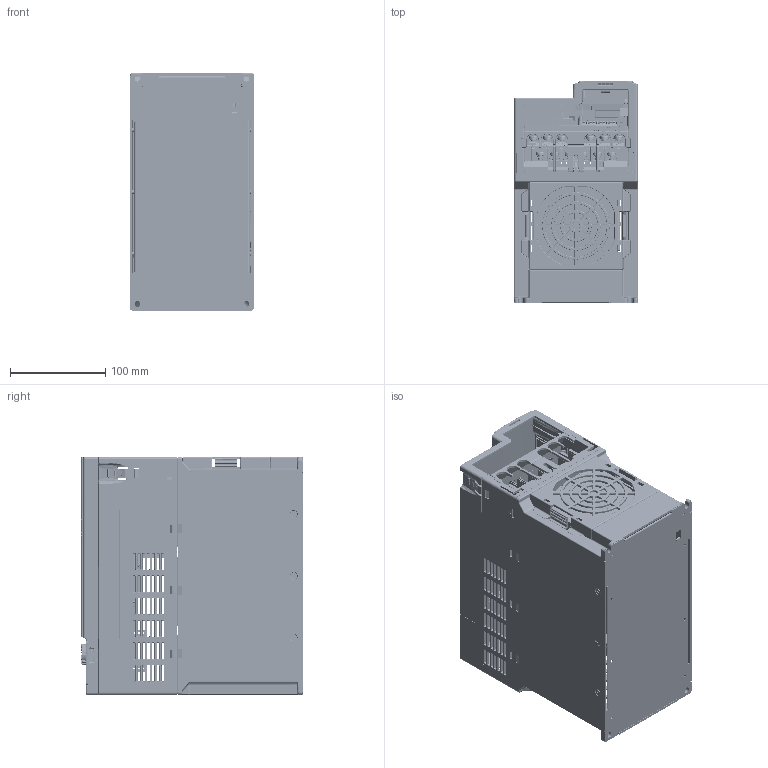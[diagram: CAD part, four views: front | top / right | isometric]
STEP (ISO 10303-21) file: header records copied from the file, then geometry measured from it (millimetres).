
FILE_DESCRIPTION((''),'2;1');
FILE_NAME('0_M300-FRAME-E-ASSY_ASM_ASM','2018-01-23T',('HONGDA.LU'),(''),'PRO/ENGINEER BY PARAMETRIC TECHNOLOGY CORPORATION, 2015240','PRO/ENGINEER BY PARAMETRIC TECHNOLOGY CORPORATION, 2015240','');
FILE_SCHEMA(('AUTOMOTIVE_DESIGN { 1 0 10303 214 1 1 1 1 }'));
Products named in the file (124): 1E_64_97_187_AF0; PRT0001_72_162_AF0; PRT0002_72_161_AF0; PRT0003_72_161_AF0; ASM0004_ASM_56_ASM_161_AF0_ASM; PRT0001_72_162_AF1; PRT0002_72_161_AF1; PRT0003_72_161_AF1; ASM0004_ASM_56_ASM_161_AF1_ASM; PRT0001_72_162_AF2; PRT0002_72_161_AF2; PRT0003_72_161_AF2; ASM0004_ASM_56_ASM_161_AF2_ASM; PRT0001_72_162_AF3; PRT0002_72_161_AF3; PRT0003_72_161_AF3; ASM0004_ASM_56_ASM_161_AF3_ASM; PRT0001_72_162_AF4; PRT0002_72_161_AF4; PRT0003_72_161_AF4; ASM0004_ASM_56_ASM_161_AF4_ASM; PRT0001_72_162_AF5; PRT0002_72_161_AF5; PRT0003_72_161_AF5; ASM0004_ASM_56_ASM_161_AF5_ASM; PRT0004_72_162_AF0; U-NUT_4_63_161_AF0; SR_4_63_161_AF0; ASM0005_ASM_57_ASM_161_AF0_ASM; PRT0004_72_162_AF1; U-NUT_4_63_161_AF1; SR_4_63_161_AF1; ASM0005_ASM_57_ASM_161_AF1_ASM; PRT0004_72_162_AF2; U-NUT_4_63_161_AF2; SR_4_63_161_AF2; ASM0005_ASM_57_ASM_161_AF2_ASM; PRT0004_72_162_AF3; U-NUT_4_63_161_AF3; SR_4_63_161_AF3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
Assembly tree (134 placements, depth 8):
  0_M300-FRAME-E-ASSY_ASM_ASM
    0_M300-FRAME-E-ASSY_ASM_602_ASM
      M300-E-PCB-ASSY_ASM_179_ASM
        M300-E-PWR-PCB-ASSY_ASM_230_ASM
          M300-E-PWR-ASSY-220V_ASM_434_ASM
            M300-E-TBLK_ASM_169_ASM
              1E_64_97_187_AF0
              ASM0004_ASM_56_ASM_161_AF0_ASM
                PRT0001_72_162_AF0
                PRT0002_72_161_AF0
                PRT0003_72_161_AF0
              ASM0004_ASM_56_ASM_161_AF1_ASM
                PRT0001_72_162_AF1
                PRT0002_72_161_AF1
                PRT0003_72_161_AF1
              ASM0004_ASM_56_ASM_161_AF2_ASM
                PRT0001_72_162_AF2
                PRT0002_72_161_AF2
                PRT0003_72_161_AF2
              ASM0004_ASM_56_ASM_161_AF3_ASM
                PRT0001_72_162_AF3
                PRT0002_72_161_AF3
                PRT0003_72_161_AF3
              ASM0004_ASM_56_ASM_161_AF4_ASM
                PRT0001_72_162_AF4
                PRT0002_72_161_AF4
                PRT0003_72_161_AF4
              ASM0004_ASM_56_ASM_161_AF5_ASM
                PRT0001_72_162_AF5
                PRT0002_72_161_AF5
                PRT0003_72_161_AF5
              ASM0005_ASM_57_ASM_161_AF0_ASM
                PRT0004_72_162_AF0
                U-NUT_4_63_161_AF0
                SR_4_63_161_AF0
              ASM0005_ASM_57_ASM_161_AF1_ASM
                PRT0004_72_162_AF1
                U-NUT_4_63_161_AF1
                SR_4_63_161_AF1
              ASM0005_ASM_57_ASM_161_AF2_ASM
                PRT0004_72_162_AF2
                U-NUT_4_63_161_AF2
                SR_4_63_161_AF2
              ASM0005_ASM_57_ASM_161_AF3_ASM
                PRT0004_72_162_AF3
                U-NUT_4_63_161_AF3
                SR_4_63_161_AF3
              ASM0005_ASM_57_ASM_161_AF4_ASM
                PRT0004_72_162_AF4
                U-NUT_4_63_161_AF4
                SR_4_63_161_AF4
              ASM0005_ASM_57_ASM_161_AF5_ASM
                PRT0004_72_162_AF5
                U-NUT_4_63_161_AF5
                SR_4_63_161_AF5
              M300-E-JUMPER_174_AF0
            M300-PLATE-MOV_ASM_542_ASM
          32621203-M300-E-TBLK-LABEL_144
        M300-E-EMI-PCB-ASSY_ASM_184_ASM
          34685489-M300-C-PLATE-RFI-CLIP_
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Bounding box: 130.8 x 234 x 250.3 mm (x, y, z)
Volume: 770714.3 mm3; surface area: 649766.2 mm2
Topology: 95 solids, 95 shells, 20279 faces, 55484 edges, 35303 vertices
Faces by surface type: plane 11391, cylinder 4521, cone 1681, torus 1018, bspline 801, extrusion 710, sphere 157
Entity records: 811680 total; most frequent: CARTESIAN_POINT 179286, ORIENTED_EDGE 103018, DIRECTION 90570, PRESENTATION_STYLE_ASSIGNMENT 51619, STYLED_ITEM 51593, CURVE_STYLE 51509, EDGE_CURVE 51509, VECTOR 35080
